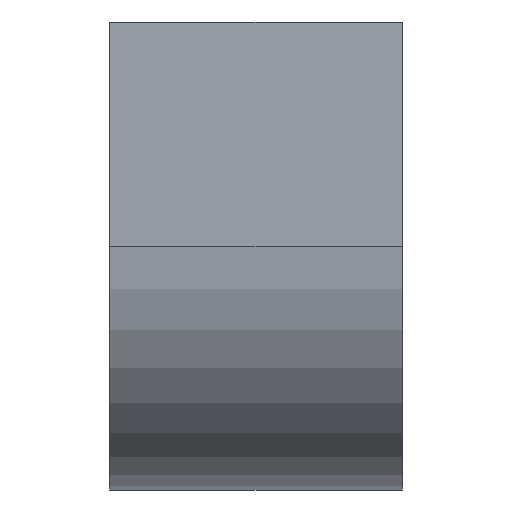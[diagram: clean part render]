
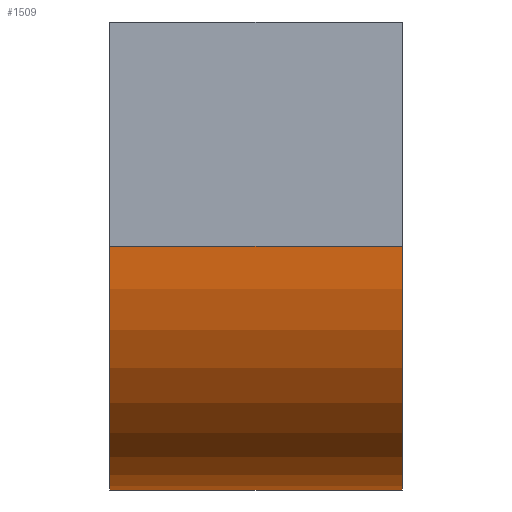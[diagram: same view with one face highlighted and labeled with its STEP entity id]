
A CAD part, front view. The second image highlights one B-rep face of the part: STEP entity #1509.
In plain terms, the highlighted cylindrical face has radius 125 mm (diameter 250 mm), a partial arc.
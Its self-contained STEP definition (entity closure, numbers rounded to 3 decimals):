
#83 = DIRECTION ( 'NONE',  ( 1., 0., 0. ) ) ;
#103 = EDGE_LOOP ( 'NONE', ( #1038, #1279, #643, #894 ) ) ;
#244 = VECTOR ( 'NONE', #1210, 1000. ) ;
#300 = VERTEX_POINT ( 'NONE', #544 ) ;
#304 = DIRECTION ( 'NONE',  ( 0., 0., 1. ) ) ;
#311 = CARTESIAN_POINT ( 'NONE',  ( 75., 50., -115. ) ) ;
#373 = CIRCLE ( 'NONE', #812, 125. ) ;
#375 = EDGE_CURVE ( 'NONE', #719, #1510, #1354, .T. ) ;
#388 = DIRECTION ( 'NONE',  ( 0., 0., 1. ) ) ;
#421 = CYLINDRICAL_SURFACE ( 'NONE', #483, 125. ) ;
#449 = EDGE_CURVE ( 'NONE', #300, #1677, #1618, .T. ) ;
#483 = AXIS2_PLACEMENT_3D ( 'NONE', #311, #1469, #304 ) ;
#544 = CARTESIAN_POINT ( 'NONE',  ( 75., 50., -240. ) ) ;
#578 = CARTESIAN_POINT ( 'NONE',  ( -75., -75., -115. ) ) ;
#591 = AXIS2_PLACEMENT_3D ( 'NONE', #993, #83, #1243 ) ;
#613 = CARTESIAN_POINT ( 'NONE',  ( -75., 50., -240. ) ) ;
#643 = ORIENTED_EDGE ( 'NONE', *, *, #951, .F. ) ;
#703 = DIRECTION ( 'NONE',  ( -1., 0., 0. ) ) ;
#719 = VERTEX_POINT ( 'NONE', #1373 ) ;
#812 = AXIS2_PLACEMENT_3D ( 'NONE', #1158, #1309, #388 ) ;
#894 = ORIENTED_EDGE ( 'NONE', *, *, #375, .T. ) ;
#948 = FACE_OUTER_BOUND ( 'NONE', #103, .T. ) ;
#951 = EDGE_CURVE ( 'NONE', #719, #300, #995, .T. ) ;
#993 = CARTESIAN_POINT ( 'NONE',  ( 75., 50., -115. ) ) ;
#995 = CIRCLE ( 'NONE', #591, 125. ) ;
#1017 = VECTOR ( 'NONE', #703, 1000. ) ;
#1038 = ORIENTED_EDGE ( 'NONE', *, *, #1164, .T. ) ;
#1069 = CARTESIAN_POINT ( 'NONE',  ( 75., 50., -240. ) ) ;
#1158 = CARTESIAN_POINT ( 'NONE',  ( -75., 50., -115. ) ) ;
#1164 = EDGE_CURVE ( 'NONE', #1510, #1677, #373, .T. ) ;
#1210 = DIRECTION ( 'NONE',  ( -1., 0., 0. ) ) ;
#1243 = DIRECTION ( 'NONE',  ( 0., 0., 1. ) ) ;
#1279 = ORIENTED_EDGE ( 'NONE', *, *, #449, .F. ) ;
#1309 = DIRECTION ( 'NONE',  ( 1., 0., 0. ) ) ;
#1354 = LINE ( 'NONE', #1639, #1017 ) ;
#1373 = CARTESIAN_POINT ( 'NONE',  ( 75., -75., -115. ) ) ;
#1469 = DIRECTION ( 'NONE',  ( -1., 0., 0. ) ) ;
#1509 = ADVANCED_FACE ( 'NONE', ( #948 ), #421, .T. ) ;
#1510 = VERTEX_POINT ( 'NONE', #578 ) ;
#1618 = LINE ( 'NONE', #1069, #244 ) ;
#1639 = CARTESIAN_POINT ( 'NONE',  ( 75., -75., -115. ) ) ;
#1677 = VERTEX_POINT ( 'NONE', #613 ) ;
